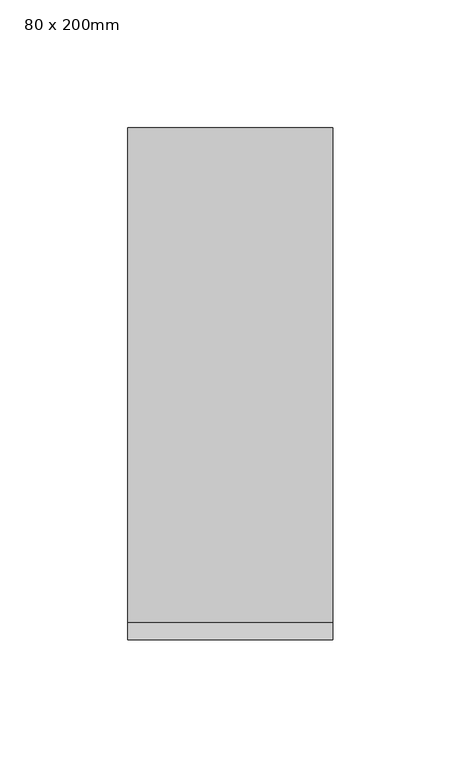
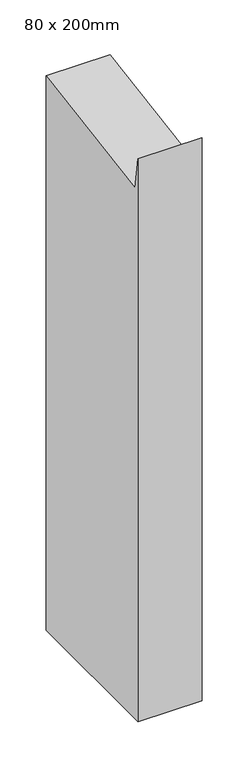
"""IFC4 building model written with IfcOpenShell, lengths in millimetres: member geometry, 矩形竖梃 : 80 x 200mm."""

from ifc_helpers import new_model, si_unit, frame, origin, place, context, project, spatial, polyline, outline, extrude, source, transform, mapped, element, save


def member_80_x_200mm_7d515866(model_context):
    return source(origin(), model_context, "Body", "SweptSolid", [
        extrude(outline(polyline([(-100.0, 26.9984805), (-93.1622284, -15.4559133), (100.0, 15.6550995), (100.0, -717.9709921), (-100.0, -717.9709921), (-100.0, 26.9984805)])), frame((-80.0, 0.0, 0.0), z_axis=(1.0, 0.0, 0.0), x_axis=(0.0, 1.0, 0.0)), (0.0, 0.0, 1.0), 80.0),
    ])


if __name__ == "__main__":
    model = new_model("IFC4")
    model_context = context("Model", 3, world=origin())
    ifc_project = project(units=[si_unit("LENGTHUNIT", "METRE", prefix="MILLI")], contexts=[model_context])
    site = spatial("IfcSite", under=ifc_project)
    building = spatial("IfcBuilding", under=site)
    placement = place(None, origin())
    member_80_x_200mm_shape = member_80_x_200mm_7d515866(model_context)
    element("IfcMember", 1, ObjectType="矩形竖梃 : 80 x 200mm", at=placement, inside=building, context=model_context, shape_type="MappedRepresentation", body=[
        mapped(member_80_x_200mm_shape, transform((0.0, 0.0, 0.0), x_axis=(1.0, 0.0, 0.0), y_axis=(0.0, 1.0, 0.0), z_axis=(0.0, 0.0, 1.0))),
    ])
    save(model, "model.ifc")
